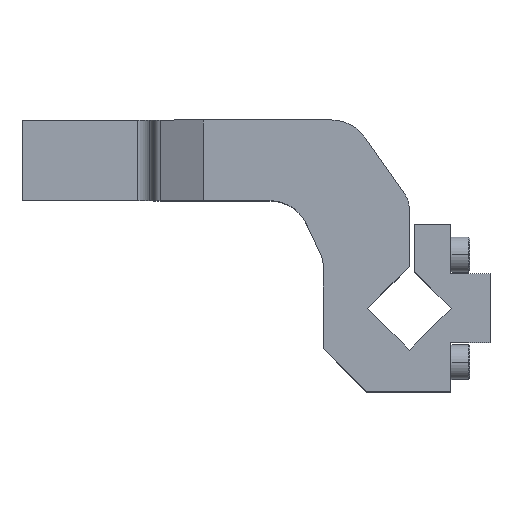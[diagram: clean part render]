
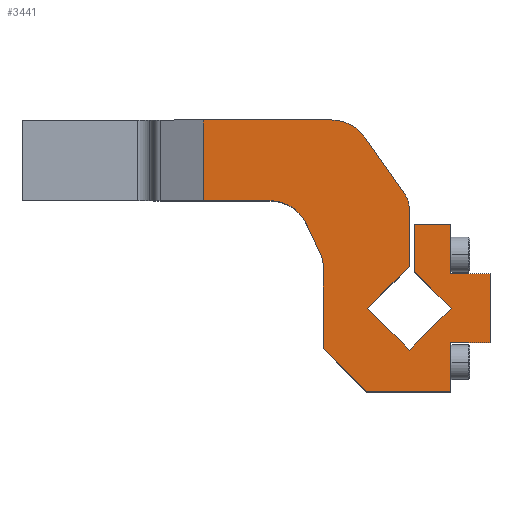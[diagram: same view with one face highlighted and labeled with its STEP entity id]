
A CAD part, top view. The second image highlights one B-rep face of the part: STEP entity #3441.
In plain terms, the highlighted planar face has unit normal (0, 0, 1).
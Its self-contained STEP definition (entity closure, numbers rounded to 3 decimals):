
#275=CARTESIAN_POINT('',(18.2,53.229,3.));
#276=VERTEX_POINT('',#275);
#285=CARTESIAN_POINT('',(18.662,50.222,3.));
#286=VERTEX_POINT('',#285);
#287=CARTESIAN_POINT('',(8.662,50.222,3.));
#288=DIRECTION('',(0.0,0.0,-1.0));
#289=DIRECTION('',(1.0,0.0,0.0));
#290=AXIS2_PLACEMENT_3D('',#287,#288,#289);
#291=CIRCLE('',#290,10.0);
#292=EDGE_CURVE('',#276,#286,#291,.T.);
#1951=CARTESIAN_POINT('',(18.662,-2.182,3.));
#1952=VERTEX_POINT('',#1951);
#1961=CARTESIAN_POINT('',(18.662,-2.181,3.));
#1962=VERTEX_POINT('',#1961);
#1963=CARTESIAN_POINT('',(18.662,-2.182,3.));
#1964=DIRECTION('',(0.,1.0,0.));
#1965=VECTOR('',#1964,0.);
#1966=LINE('',#1963,#1965);
#1967=EDGE_CURVE('',#1952,#1962,#1966,.T.);
#2515=CARTESIAN_POINT('',(20.662,26.931,3.));
#2516=VERTEX_POINT('',#2515);
#2525=CARTESIAN_POINT('',(20.662,44.375,3.));
#2526=VERTEX_POINT('',#2525);
#2527=CARTESIAN_POINT('',(20.662,44.375,3.));
#2528=DIRECTION('',(0.0,-1.0,0.0));
#2529=VECTOR('',#2528,17.444);
#2530=LINE('',#2527,#2529);
#2531=EDGE_CURVE('',#2526,#2516,#2530,.T.);
#2574=CARTESIAN_POINT('',(34.218,13.375,3.));
#2575=VERTEX_POINT('',#2574);
#2582=CARTESIAN_POINT('',(34.218,13.375,3.));
#2583=DIRECTION('',(-0.707,0.707,0.));
#2584=VECTOR('',#2583,19.171);
#2585=LINE('',#2582,#2584);
#2586=EDGE_CURVE('',#2575,#2516,#2585,.T.);
#2630=CARTESIAN_POINT('',(34.162,44.375,3.));
#2631=VERTEX_POINT('',#2630);
#2632=CARTESIAN_POINT('',(20.662,44.375,3.));
#2633=DIRECTION('',(1.0,0.0,0.0));
#2634=VECTOR('',#2633,13.5);
#2635=LINE('',#2632,#2634);
#2636=EDGE_CURVE('',#2526,#2631,#2635,.T.);
#2660=CARTESIAN_POINT('',(34.162,26.125,3.));
#2661=VERTEX_POINT('',#2660);
#2662=CARTESIAN_POINT('',(34.162,44.375,3.));
#2663=DIRECTION('',(0.0,-1.0,0.0));
#2664=VECTOR('',#2663,18.25);
#2665=LINE('',#2662,#2664);
#2666=EDGE_CURVE('',#2631,#2661,#2665,.T.);
#2695=CARTESIAN_POINT('',(48.662,26.125,3.));
#2696=VERTEX_POINT('',#2695);
#2697=CARTESIAN_POINT('',(34.162,26.125,3.));
#2698=DIRECTION('',(1.0,0.0,0.0));
#2699=VECTOR('',#2698,14.5);
#2700=LINE('',#2697,#2699);
#2701=EDGE_CURVE('',#2661,#2696,#2700,.T.);
#2726=CARTESIAN_POINT('',(48.662,0.625,3.));
#2727=VERTEX_POINT('',#2726);
#2728=CARTESIAN_POINT('',(48.662,26.125,3.));
#2729=DIRECTION('',(0.0,-1.0,0.0));
#2730=VECTOR('',#2729,25.5);
#2731=LINE('',#2728,#2730);
#2732=EDGE_CURVE('',#2696,#2727,#2731,.T.);
#2757=CARTESIAN_POINT('',(34.162,0.625,3.));
#2758=VERTEX_POINT('',#2757);
#2759=CARTESIAN_POINT('',(48.662,0.625,3.));
#2760=DIRECTION('',(-1.0,0.0,0.0));
#2761=VECTOR('',#2760,14.5);
#2762=LINE('',#2759,#2761);
#2763=EDGE_CURVE('',#2727,#2758,#2762,.T.);
#2788=CARTESIAN_POINT('',(34.162,-17.625,3.));
#2789=VERTEX_POINT('',#2788);
#2790=CARTESIAN_POINT('',(34.162,0.625,3.));
#2791=DIRECTION('',(0.0,-1.0,0.0));
#2792=VECTOR('',#2791,18.25);
#2793=LINE('',#2790,#2792);
#2794=EDGE_CURVE('',#2758,#2789,#2793,.T.);
#2823=CARTESIAN_POINT('',(18.662,-2.181,3.));
#2824=DIRECTION('',(0.707,0.707,0.0));
#2825=VECTOR('',#2824,22.);
#2826=LINE('',#2823,#2825);
#2827=EDGE_CURVE('',#1962,#2575,#2826,.T.);
#3262=CARTESIAN_POINT('',(-33.152,53.375,3.));
#3263=VERTEX_POINT('',#3262);
#3270=CARTESIAN_POINT('',(-57.904,53.375,3.));
#3271=VERTEX_POINT('',#3270);
#3272=CARTESIAN_POINT('',(-33.152,53.375,3.));
#3273=DIRECTION('',(-1.0,0.0,0.0));
#3274=VECTOR('',#3273,24.752);
#3275=LINE('',#3272,#3274);
#3276=EDGE_CURVE('',#3263,#3271,#3275,.T.);
#3312=CARTESIAN_POINT('',(-14.668,40.84,3.));
#3313=DIRECTION('',(0.0,0.0,1.0));
#3314=DIRECTION('',(1.0,0.0,0.0));
#3315=AXIS2_PLACEMENT_3D('',#3312,#3313,#3314);
#3316=PLANE('',#3315);
#3317=CARTESIAN_POINT('',(-57.904,83.375,3.));
#3318=VERTEX_POINT('',#3317);
#3319=CARTESIAN_POINT('',(-57.904,83.375,3.));
#3320=DIRECTION('',(0.0,-1.0,0.0));
#3321=VECTOR('',#3320,30.);
#3322=LINE('',#3319,#3321);
#3323=EDGE_CURVE('',#3318,#3271,#3322,.T.);
#3324=ORIENTED_EDGE('',*,*,#3323,.T.);
#3325=ORIENTED_EDGE('',*,*,#3276,.F.);
#3326=CARTESIAN_POINT('',(-19.558,44.714,3.));
#3327=VERTEX_POINT('',#3326);
#3328=CARTESIAN_POINT('',(-33.152,38.375,3.));
#3329=DIRECTION('',(0.0,0.0,1.));
#3330=DIRECTION('',(-0.906,-0.423,0.0));
#3331=AXIS2_PLACEMENT_3D('',#3328,#3329,#3330);
#3332=CIRCLE('',#3331,15.);
#3333=EDGE_CURVE('',#3327,#3263,#3332,.T.);
#3334=ORIENTED_EDGE('',*,*,#3333,.F.);
#3335=CARTESIAN_POINT('',(-14.275,33.384,3.));
#3336=VERTEX_POINT('',#3335);
#3337=CARTESIAN_POINT('',(-14.275,33.384,3.));
#3338=DIRECTION('',(-0.423,0.906,0.0));
#3339=VECTOR('',#3338,12.501);
#3340=LINE('',#3337,#3339);
#3341=EDGE_CURVE('',#3336,#3327,#3340,.T.);
#3342=ORIENTED_EDGE('',*,*,#3341,.F.);
#3343=CARTESIAN_POINT('',(-13.338,29.158,3.));
#3344=VERTEX_POINT('',#3343);
#3345=CARTESIAN_POINT('',(-23.338,29.158,3.));
#3346=DIRECTION('',(0.0,0.0,1.0));
#3347=DIRECTION('',(-1.0,0.0,0.0));
#3348=AXIS2_PLACEMENT_3D('',#3345,#3346,#3347);
#3349=CIRCLE('',#3348,10.);
#3350=EDGE_CURVE('',#3344,#3336,#3349,.T.);
#3351=ORIENTED_EDGE('',*,*,#3350,.F.);
#3352=CARTESIAN_POINT('',(-13.338,-1.625,3.));
#3353=VERTEX_POINT('',#3352);
#3354=CARTESIAN_POINT('',(-13.338,-1.625,3.));
#3355=DIRECTION('',(0.0,1.0,0.0));
#3356=VECTOR('',#3355,30.783);
#3357=LINE('',#3354,#3356);
#3358=EDGE_CURVE('',#3353,#3344,#3357,.T.);
#3359=ORIENTED_EDGE('',*,*,#3358,.F.);
#3360=CARTESIAN_POINT('',(2.662,-17.625,3.));
#3361=VERTEX_POINT('',#3360);
#3362=CARTESIAN_POINT('',(2.662,-17.625,3.));
#3363=DIRECTION('',(-0.707,0.707,0.0));
#3364=VECTOR('',#3363,22.627);
#3365=LINE('',#3362,#3364);
#3366=EDGE_CURVE('',#3361,#3353,#3365,.T.);
#3367=ORIENTED_EDGE('',*,*,#3366,.F.);
#3368=CARTESIAN_POINT('',(34.162,-17.625,3.));
#3369=DIRECTION('',(-1.0,0.0,0.0));
#3370=VECTOR('',#3369,31.5);
#3371=LINE('',#3368,#3370);
#3372=EDGE_CURVE('',#2789,#3361,#3371,.T.);
#3373=ORIENTED_EDGE('',*,*,#3372,.F.);
#3374=ORIENTED_EDGE('',*,*,#2794,.F.);
#3375=ORIENTED_EDGE('',*,*,#2763,.F.);
#3376=ORIENTED_EDGE('',*,*,#2732,.F.);
#3377=ORIENTED_EDGE('',*,*,#2701,.F.);
#3378=ORIENTED_EDGE('',*,*,#2666,.F.);
#3379=ORIENTED_EDGE('',*,*,#2636,.F.);
#3380=ORIENTED_EDGE('',*,*,#2531,.T.);
#3381=ORIENTED_EDGE('',*,*,#2586,.F.);
#3382=ORIENTED_EDGE('',*,*,#2827,.F.);
#3383=ORIENTED_EDGE('',*,*,#1967,.F.);
#3384=CARTESIAN_POINT('',(3.106,13.375,3.));
#3385=VERTEX_POINT('',#3384);
#3386=CARTESIAN_POINT('',(3.106,13.375,3.));
#3387=DIRECTION('',(0.707,-0.707,0.0));
#3388=VECTOR('',#3387,22.);
#3389=LINE('',#3386,#3388);
#3390=EDGE_CURVE('',#3385,#1952,#3389,.T.);
#3391=ORIENTED_EDGE('',*,*,#3390,.F.);
#3392=CARTESIAN_POINT('',(18.662,28.931,3.));
#3393=VERTEX_POINT('',#3392);
#3394=CARTESIAN_POINT('',(18.662,28.931,3.));
#3395=DIRECTION('',(-0.707,-0.707,0.0));
#3396=VECTOR('',#3395,22.);
#3397=LINE('',#3394,#3396);
#3398=EDGE_CURVE('',#3393,#3385,#3397,.T.);
#3399=ORIENTED_EDGE('',*,*,#3398,.F.);
#3400=CARTESIAN_POINT('',(18.662,50.222,3.));
#3401=DIRECTION('',(0.0,-1.0,0.0));
#3402=VECTOR('',#3401,21.291);
#3403=LINE('',#3400,#3402);
#3404=EDGE_CURVE('',#286,#3393,#3403,.T.);
#3405=ORIENTED_EDGE('',*,*,#3404,.F.);
#3406=ORIENTED_EDGE('',*,*,#292,.F.);
#3407=CARTESIAN_POINT('',(16.854,55.958,3.));
#3408=VERTEX_POINT('',#3407);
#3409=CARTESIAN_POINT('',(8.662,50.222,3.));
#3410=DIRECTION('',(0.0,0.0,-1.0));
#3411=DIRECTION('',(1.0,0.0,0.0));
#3412=AXIS2_PLACEMENT_3D('',#3409,#3410,#3411);
#3413=CIRCLE('',#3412,10.0);
#3414=EDGE_CURVE('',#3408,#276,#3413,.T.);
#3415=ORIENTED_EDGE('',*,*,#3414,.F.);
#3416=CARTESIAN_POINT('',(2.135,76.978,3.));
#3417=VERTEX_POINT('',#3416);
#3418=CARTESIAN_POINT('',(2.135,76.978,3.));
#3419=DIRECTION('',(0.574,-0.819,0.0));
#3420=VECTOR('',#3419,25.662);
#3421=LINE('',#3418,#3420);
#3422=EDGE_CURVE('',#3417,#3408,#3421,.T.);
#3423=ORIENTED_EDGE('',*,*,#3422,.F.);
#3424=CARTESIAN_POINT('',(-10.152,83.375,3.));
#3425=VERTEX_POINT('',#3424);
#3426=CARTESIAN_POINT('',(-10.152,68.375,3.));
#3427=DIRECTION('',(0.0,0.0,-1.0));
#3428=DIRECTION('',(0.819,0.574,0.0));
#3429=AXIS2_PLACEMENT_3D('',#3426,#3427,#3428);
#3430=CIRCLE('',#3429,15.);
#3431=EDGE_CURVE('',#3425,#3417,#3430,.T.);
#3432=ORIENTED_EDGE('',*,*,#3431,.F.);
#3433=CARTESIAN_POINT('',(-57.904,83.375,3.));
#3434=DIRECTION('',(1.0,0.0,0.0));
#3435=VECTOR('',#3434,47.752);
#3436=LINE('',#3433,#3435);
#3437=EDGE_CURVE('',#3318,#3425,#3436,.T.);
#3438=ORIENTED_EDGE('',*,*,#3437,.F.);
#3439=EDGE_LOOP('',(#3324,#3325,#3334,#3342,#3351,#3359,#3367,#3373,#3374,#3375,#3376,#3377,#3378,#3379,#3380,#3381,#3382,#3383,#3391,#3399,#3405,#3406,#3415,#3423,#3432,#3438));
#3440=FACE_OUTER_BOUND('',#3439,.T.);
#3441=ADVANCED_FACE('',(#3440),#3316,.T.);
